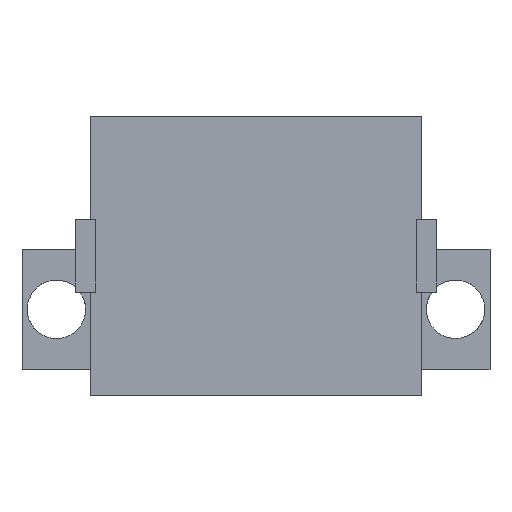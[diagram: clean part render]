
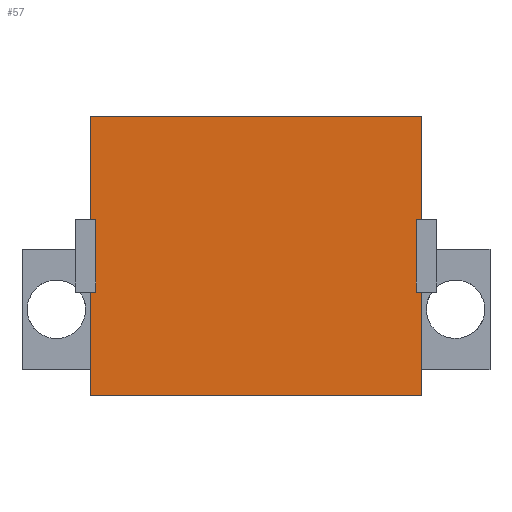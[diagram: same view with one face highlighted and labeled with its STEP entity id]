
A CAD part, top view. The second image highlights one B-rep face of the part: STEP entity #57.
In plain terms, the highlighted planar face has unit normal (0, 0, 1).
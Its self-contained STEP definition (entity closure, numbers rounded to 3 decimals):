
#21 = EDGE_CURVE('',#22,#24,#26,.T.);
#22 = VERTEX_POINT('',#23);
#23 = CARTESIAN_POINT('',(23.725,-16.7,23.075));
#24 = VERTEX_POINT('',#25);
#25 = CARTESIAN_POINT('',(23.725,-15.2,23.075));
#26 = LINE('',#27,#28);
#27 = CARTESIAN_POINT('',(23.725,-16.7,23.075));
#28 = VECTOR('',#29,1.);
#29 = DIRECTION('',(-0.,1.,0.));
#57 = ADVANCED_FACE('',(#58),#163,.T.);
#58 = FACE_BOUND('',#59,.T.);
#59 = EDGE_LOOP('',(#60,#61,#69,#77,#85,#93,#101,#109,#117,#125,#133,
    #141,#149,#157));
#60 = ORIENTED_EDGE('',*,*,#21,.F.);
#61 = ORIENTED_EDGE('',*,*,#62,.T.);
#62 = EDGE_CURVE('',#22,#63,#65,.T.);
#63 = VERTEX_POINT('',#64);
#64 = CARTESIAN_POINT('',(42.925,-16.7,23.075));
#65 = LINE('',#66,#67);
#66 = CARTESIAN_POINT('',(23.725,-16.7,23.075));
#67 = VECTOR('',#68,1.);
#68 = DIRECTION('',(1.,0.,-0.));
#69 = ORIENTED_EDGE('',*,*,#70,.T.);
#70 = EDGE_CURVE('',#63,#71,#73,.T.);
#71 = VERTEX_POINT('',#72);
#72 = CARTESIAN_POINT('',(42.925,-15.2,23.075));
#73 = LINE('',#74,#75);
#74 = CARTESIAN_POINT('',(42.925,-16.7,23.075));
#75 = VECTOR('',#76,1.);
#76 = DIRECTION('',(-0.,1.,0.));
#77 = ORIENTED_EDGE('',*,*,#78,.T.);
#78 = EDGE_CURVE('',#71,#79,#81,.T.);
#79 = VERTEX_POINT('',#80);
#80 = CARTESIAN_POINT('',(42.925,-10.7,23.075));
#81 = LINE('',#82,#83);
#82 = CARTESIAN_POINT('',(42.925,-16.7,23.075));
#83 = VECTOR('',#84,1.);
#84 = DIRECTION('',(-0.,1.,0.));
#85 = ORIENTED_EDGE('',*,*,#86,.T.);
#86 = EDGE_CURVE('',#79,#87,#89,.T.);
#87 = VERTEX_POINT('',#88);
#88 = CARTESIAN_POINT('',(42.625,-10.7,23.075));
#89 = LINE('',#90,#91);
#90 = CARTESIAN_POINT('',(33.175,-10.7,23.075));
#91 = VECTOR('',#92,1.);
#92 = DIRECTION('',(-1.,-0.,0.));
#93 = ORIENTED_EDGE('',*,*,#94,.T.);
#94 = EDGE_CURVE('',#87,#95,#97,.T.);
#95 = VERTEX_POINT('',#96);
#96 = CARTESIAN_POINT('',(42.625,-6.5,23.075));
#97 = LINE('',#98,#99);
#98 = CARTESIAN_POINT('',(42.625,-13.7,23.075));
#99 = VECTOR('',#100,1.);
#100 = DIRECTION('',(-0.,1.,0.));
#101 = ORIENTED_EDGE('',*,*,#102,.F.);
#102 = EDGE_CURVE('',#103,#95,#105,.T.);
#103 = VERTEX_POINT('',#104);
#104 = CARTESIAN_POINT('',(42.925,-6.5,23.075));
#105 = LINE('',#106,#107);
#106 = CARTESIAN_POINT('',(33.175,-6.5,23.075));
#107 = VECTOR('',#108,1.);
#108 = DIRECTION('',(-1.,-0.,0.));
#109 = ORIENTED_EDGE('',*,*,#110,.T.);
#110 = EDGE_CURVE('',#103,#111,#113,.T.);
#111 = VERTEX_POINT('',#112);
#112 = CARTESIAN_POINT('',(42.925,-0.5,23.075));
#113 = LINE('',#114,#115);
#114 = CARTESIAN_POINT('',(42.925,-16.7,23.075));
#115 = VECTOR('',#116,1.);
#116 = DIRECTION('',(-0.,1.,0.));
#117 = ORIENTED_EDGE('',*,*,#118,.F.);
#118 = EDGE_CURVE('',#119,#111,#121,.T.);
#119 = VERTEX_POINT('',#120);
#120 = CARTESIAN_POINT('',(23.725,-0.5,23.075));
#121 = LINE('',#122,#123);
#122 = CARTESIAN_POINT('',(23.725,-0.5,23.075));
#123 = VECTOR('',#124,1.);
#124 = DIRECTION('',(1.,0.,-0.));
#125 = ORIENTED_EDGE('',*,*,#126,.F.);
#126 = EDGE_CURVE('',#127,#119,#129,.T.);
#127 = VERTEX_POINT('',#128);
#128 = CARTESIAN_POINT('',(23.725,-6.5,23.075));
#129 = LINE('',#130,#131);
#130 = CARTESIAN_POINT('',(23.725,-16.7,23.075));
#131 = VECTOR('',#132,1.);
#132 = DIRECTION('',(-0.,1.,0.));
#133 = ORIENTED_EDGE('',*,*,#134,.F.);
#134 = EDGE_CURVE('',#135,#127,#137,.T.);
#135 = VERTEX_POINT('',#136);
#136 = CARTESIAN_POINT('',(24.025,-6.5,23.075));
#137 = LINE('',#138,#139);
#138 = CARTESIAN_POINT('',(23.275,-6.5,23.075));
#139 = VECTOR('',#140,1.);
#140 = DIRECTION('',(-1.,-0.,0.));
#141 = ORIENTED_EDGE('',*,*,#142,.F.);
#142 = EDGE_CURVE('',#143,#135,#145,.T.);
#143 = VERTEX_POINT('',#144);
#144 = CARTESIAN_POINT('',(24.025,-10.7,23.075));
#145 = LINE('',#146,#147);
#146 = CARTESIAN_POINT('',(24.025,-13.7,23.075));
#147 = VECTOR('',#148,1.);
#148 = DIRECTION('',(-0.,1.,0.));
#149 = ORIENTED_EDGE('',*,*,#150,.T.);
#150 = EDGE_CURVE('',#143,#151,#153,.T.);
#151 = VERTEX_POINT('',#152);
#152 = CARTESIAN_POINT('',(23.725,-10.7,23.075));
#153 = LINE('',#154,#155);
#154 = CARTESIAN_POINT('',(23.275,-10.7,23.075));
#155 = VECTOR('',#156,1.);
#156 = DIRECTION('',(-1.,-0.,0.));
#157 = ORIENTED_EDGE('',*,*,#158,.F.);
#158 = EDGE_CURVE('',#24,#151,#159,.T.);
#159 = LINE('',#160,#161);
#160 = CARTESIAN_POINT('',(23.725,-16.7,23.075));
#161 = VECTOR('',#162,1.);
#162 = DIRECTION('',(-0.,1.,0.));
#163 = PLANE('',#164);
#164 = AXIS2_PLACEMENT_3D('',#165,#166,#167);
#165 = CARTESIAN_POINT('',(23.725,-16.7,23.075));
#166 = DIRECTION('',(0.,0.,1.));
#167 = DIRECTION('',(1.,0.,-0.));
